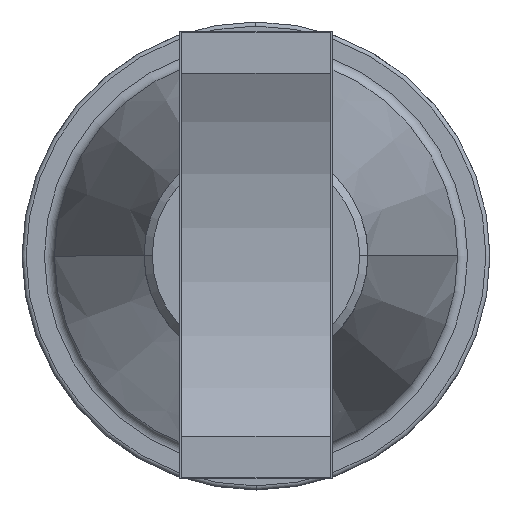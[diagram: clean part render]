
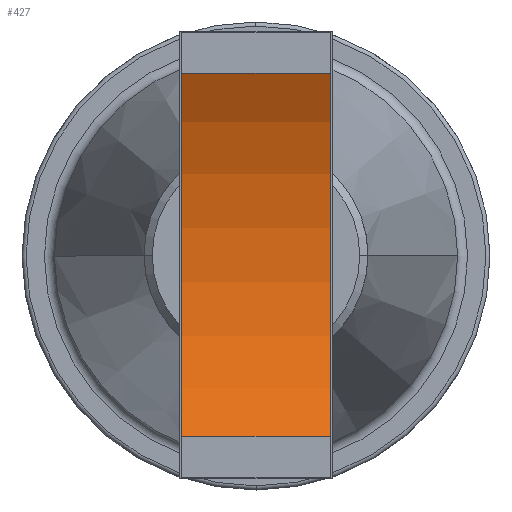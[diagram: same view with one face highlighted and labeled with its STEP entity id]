
A CAD part, top view. The second image highlights one B-rep face of the part: STEP entity #427.
In plain terms, the highlighted cylindrical face has radius 177.8 mm (diameter 355.6 mm), a partial arc.
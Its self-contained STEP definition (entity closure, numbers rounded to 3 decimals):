
#427=ADVANCED_FACE('',(#827),#828,.F.);
#827=FACE_OUTER_BOUND('',#1228,.T.);
#828=CYLINDRICAL_SURFACE('',#1229,177.8);
#1228=EDGE_LOOP('',(#2233,#2234,#2235,#2236));
#1229=AXIS2_PLACEMENT_3D('',#2237,#2238,#2239);
#2233=ORIENTED_EDGE('',*,*,#2672,.T.);
#2234=ORIENTED_EDGE('',*,*,#2673,.F.);
#2235=ORIENTED_EDGE('',*,*,#2674,.T.);
#2236=ORIENTED_EDGE('',*,*,#2669,.T.);
#2237=CARTESIAN_POINT('',(471.274,681.005,238.9));
#2238=DIRECTION('',(1.0,0.,0.));
#2239=DIRECTION('',(0.,1.0,0.));
#2669=EDGE_CURVE('',#3246,#3244,#3247,.T.);
#2672=EDGE_CURVE('',#3244,#3250,#3251,.T.);
#2673=EDGE_CURVE('',#3252,#3250,#3253,.T.);
#2674=EDGE_CURVE('',#3252,#3246,#3254,.T.);
#3244=VERTEX_POINT('',#4539);
#3246=VERTEX_POINT('',#4542);
#3247=LINE('',#4543,#4544);
#3250=VERTEX_POINT('',#4548);
#3251=CIRCLE('',#4549,177.8);
#3252=VERTEX_POINT('',#4550);
#3253=LINE('',#4551,#4552);
#3254=CIRCLE('',#4553,177.8);
#4539=CARTESIAN_POINT('',(544.274,591.796,85.1));
#4542=CARTESIAN_POINT('',(471.274,591.796,85.1));
#4543=CARTESIAN_POINT('',(471.274,591.796,85.1));
#4544=VECTOR('',#5013,1.0);
#4548=CARTESIAN_POINT('',(544.274,770.215,85.1));
#4549=AXIS2_PLACEMENT_3D('',#5015,#5016,#5017);
#4550=CARTESIAN_POINT('',(471.274,770.215,85.1));
#4551=CARTESIAN_POINT('',(471.274,770.215,85.1));
#4552=VECTOR('',#5018,1.0);
#4553=AXIS2_PLACEMENT_3D('',#5019,#5020,#5021);
#5013=DIRECTION('',(1.0,0.,0.));
#5015=CARTESIAN_POINT('',(544.274,681.005,238.9));
#5016=DIRECTION('',(1.0,0.,0.));
#5017=DIRECTION('',(0.,1.0,0.));
#5018=DIRECTION('',(1.0,0.,0.));
#5019=CARTESIAN_POINT('',(471.274,681.005,238.9));
#5020=DIRECTION('',(-1.0,0.,0.));
#5021=DIRECTION('',(0.,1.0,0.));
